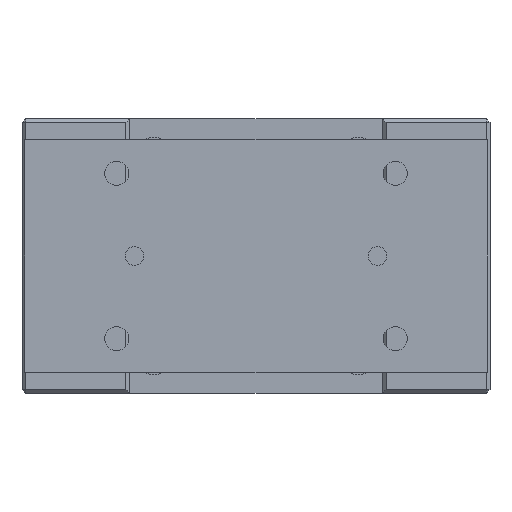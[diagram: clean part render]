
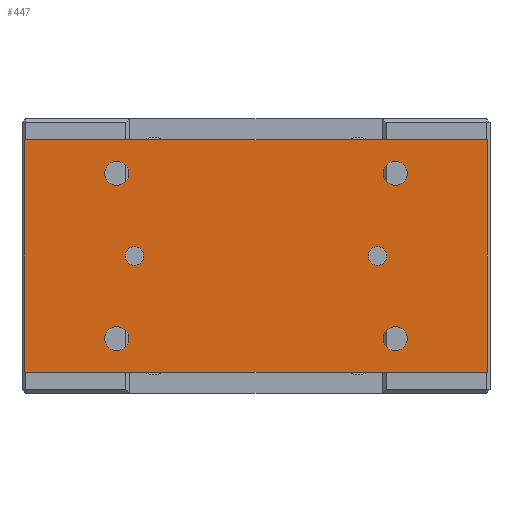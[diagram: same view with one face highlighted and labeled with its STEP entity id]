
A CAD part, left-side view. The second image highlights one B-rep face of the part: STEP entity #447.
In plain terms, the highlighted planar face has unit normal (-1, 0, 0).
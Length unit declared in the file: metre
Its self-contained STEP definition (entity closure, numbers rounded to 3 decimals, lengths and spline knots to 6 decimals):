
#447 = ADVANCED_FACE( '', ( #1098, #1099, #1100, #1101, #1102, #1103, #1104 ), #1105, .T. );
#1098 = FACE_BOUND( '', #1988, .T. );
#1099 = FACE_BOUND( '', #1989, .T. );
#1100 = FACE_BOUND( '', #1990, .T. );
#1101 = FACE_BOUND( '', #1991, .T. );
#1102 = FACE_BOUND( '', #1992, .T. );
#1103 = FACE_BOUND( '', #1993, .T. );
#1104 = FACE_OUTER_BOUND( '', #1994, .T. );
#1105 = PLANE( '', #1995 );
#1988 = EDGE_LOOP( '', ( #3163 ) );
#1989 = EDGE_LOOP( '', ( #3164 ) );
#1990 = EDGE_LOOP( '', ( #3165 ) );
#1991 = EDGE_LOOP( '', ( #3166 ) );
#1992 = EDGE_LOOP( '', ( #3167 ) );
#1993 = EDGE_LOOP( '', ( #3168 ) );
#1994 = EDGE_LOOP( '', ( #3169, #3170, #3171, #3172 ) );
#1995 = AXIS2_PLACEMENT_3D( '', #3173, #3174, #3175 );
#3163 = ORIENTED_EDGE( '', *, *, #4592, .F. );
#3164 = ORIENTED_EDGE( '', *, *, #4593, .T. );
#3165 = ORIENTED_EDGE( '', *, *, #4594, .F. );
#3166 = ORIENTED_EDGE( '', *, *, #4583, .F. );
#3167 = ORIENTED_EDGE( '', *, *, #4521, .F. );
#3168 = ORIENTED_EDGE( '', *, *, #4595, .F. );
#3169 = ORIENTED_EDGE( '', *, *, #4596, .T. );
#3170 = ORIENTED_EDGE( '', *, *, #4597, .T. );
#3171 = ORIENTED_EDGE( '', *, *, #4589, .T. );
#3172 = ORIENTED_EDGE( '', *, *, #4598, .T. );
#3173 = CARTESIAN_POINT( '', ( -0.143, -0.1245, -0.0115 ) );
#3174 = DIRECTION( '', ( -1., 0., 0. ) );
#3175 = DIRECTION( '', ( 0., 0., 1. ) );
#4521 = EDGE_CURVE( '', #5326, #5326, #5327, .T. );
#4583 = EDGE_CURVE( '', #5412, #5412, #5413, .T. );
#4589 = EDGE_CURVE( '', #5422, #5420, #5423, .T. );
#4592 = EDGE_CURVE( '', #5426, #5426, #5427, .T. );
#4593 = EDGE_CURVE( '', #5428, #5428, #5429, .T. );
#4594 = EDGE_CURVE( '', #5430, #5430, #5431, .T. );
#4595 = EDGE_CURVE( '', #5432, #5432, #5433, .T. );
#4596 = EDGE_CURVE( '', #5434, #5435, #5436, .T. );
#4597 = EDGE_CURVE( '', #5435, #5422, #5437, .T. );
#4598 = EDGE_CURVE( '', #5420, #5434, #5438, .T. );
#5326 = VERTEX_POINT( '', #6494 );
#5327 = CIRCLE( '', #6495, 0.0065 );
#5412 = VERTEX_POINT( '', #6699 );
#5413 = CIRCLE( '', #6700, 0.0065 );
#5420 = VERTEX_POINT( '', #6707 );
#5422 = VERTEX_POINT( '', #6710 );
#5423 = LINE( '', #6711, #6712 );
#5426 = VERTEX_POINT( '', #6716 );
#5427 = CIRCLE( '', #6717, 0.005 );
#5428 = VERTEX_POINT( '', #6718 );
#5429 = CIRCLE( '', #6719, 0.005 );
#5430 = VERTEX_POINT( '', #6720 );
#5431 = CIRCLE( '', #6721, 0.0065 );
#5432 = VERTEX_POINT( '', #6722 );
#5433 = CIRCLE( '', #6723, 0.0065 );
#5434 = VERTEX_POINT( '', #6724 );
#5435 = VERTEX_POINT( '', #6725 );
#5436 = LINE( '', #6726, #6727 );
#5437 = LINE( '', #6728, #6729 );
#5438 = LINE( '', #6730, #6731 );
#6494 = CARTESIAN_POINT( '', ( -0.143, -0.075, -0.023 ) );
#6495 = AXIS2_PLACEMENT_3D( '', #7595, #7596, #7597 );
#6699 = CARTESIAN_POINT( '', ( -0.143, 0.075, -0.112 ) );
#6700 = AXIS2_PLACEMENT_3D( '', #7654, #7655, #7656 );
#6707 = CARTESIAN_POINT( '', ( -0.143, 0.1245, -0.1365 ) );
#6710 = CARTESIAN_POINT( '', ( -0.143, 0.1245, -0.0115 ) );
#6711 = CARTESIAN_POINT( '', ( -0.143, 0.1245, -0.0115 ) );
#6712 = VECTOR( '', #7664, 1. );
#6716 = CARTESIAN_POINT( '', ( -0.143, -0.0705, -0.074 ) );
#6717 = AXIS2_PLACEMENT_3D( '', #7666, #7667, #7668 );
#6718 = CARTESIAN_POINT( '', ( -0.143, 0.0705, -0.074 ) );
#6719 = AXIS2_PLACEMENT_3D( '', #7669, #7670, #7671 );
#6720 = CARTESIAN_POINT( '', ( -0.143, -0.075, -0.112 ) );
#6721 = AXIS2_PLACEMENT_3D( '', #7672, #7673, #7674 );
#6722 = CARTESIAN_POINT( '', ( -0.143, 0.075, -0.023 ) );
#6723 = AXIS2_PLACEMENT_3D( '', #7675, #7676, #7677 );
#6724 = CARTESIAN_POINT( '', ( -0.143, -0.1245, -0.1365 ) );
#6725 = CARTESIAN_POINT( '', ( -0.143, -0.1245, -0.0115 ) );
#6726 = CARTESIAN_POINT( '', ( -0.143, -0.1245, -0.1365 ) );
#6727 = VECTOR( '', #7678, 1. );
#6728 = CARTESIAN_POINT( '', ( -0.143, -0.1245, -0.0115 ) );
#6729 = VECTOR( '', #7679, 1. );
#6730 = CARTESIAN_POINT( '', ( -0.143, 0.1245, -0.1365 ) );
#6731 = VECTOR( '', #7680, 1. );
#7595 = CARTESIAN_POINT( '', ( -0.143, -0.075, -0.0295 ) );
#7596 = DIRECTION( '', ( -1., 0., 0. ) );
#7597 = DIRECTION( '', ( 0., 0., 1. ) );
#7654 = CARTESIAN_POINT( '', ( -0.143, 0.075, -0.1185 ) );
#7655 = DIRECTION( '', ( -1., 0., 0. ) );
#7656 = DIRECTION( '', ( 0., 0., 1. ) );
#7664 = DIRECTION( '', ( 0., 0., -1. ) );
#7666 = CARTESIAN_POINT( '', ( -0.143, -0.0655, -0.074 ) );
#7667 = DIRECTION( '', ( -1., 0., 0. ) );
#7668 = DIRECTION( '', ( 0., -1., 0. ) );
#7669 = CARTESIAN_POINT( '', ( -0.143, 0.0655, -0.074 ) );
#7670 = DIRECTION( '', ( 1., 0., 0. ) );
#7671 = DIRECTION( '', ( 0., 1., 0. ) );
#7672 = CARTESIAN_POINT( '', ( -0.143, -0.075, -0.1185 ) );
#7673 = DIRECTION( '', ( -1., 0., 0. ) );
#7674 = DIRECTION( '', ( 0., 0., 1. ) );
#7675 = CARTESIAN_POINT( '', ( -0.143, 0.075, -0.0295 ) );
#7676 = DIRECTION( '', ( -1., 0., 0. ) );
#7677 = DIRECTION( '', ( 0., 0., 1. ) );
#7678 = DIRECTION( '', ( 0., 0., 1. ) );
#7679 = DIRECTION( '', ( 0., 1., 0. ) );
#7680 = DIRECTION( '', ( 0., -1., 0. ) );
